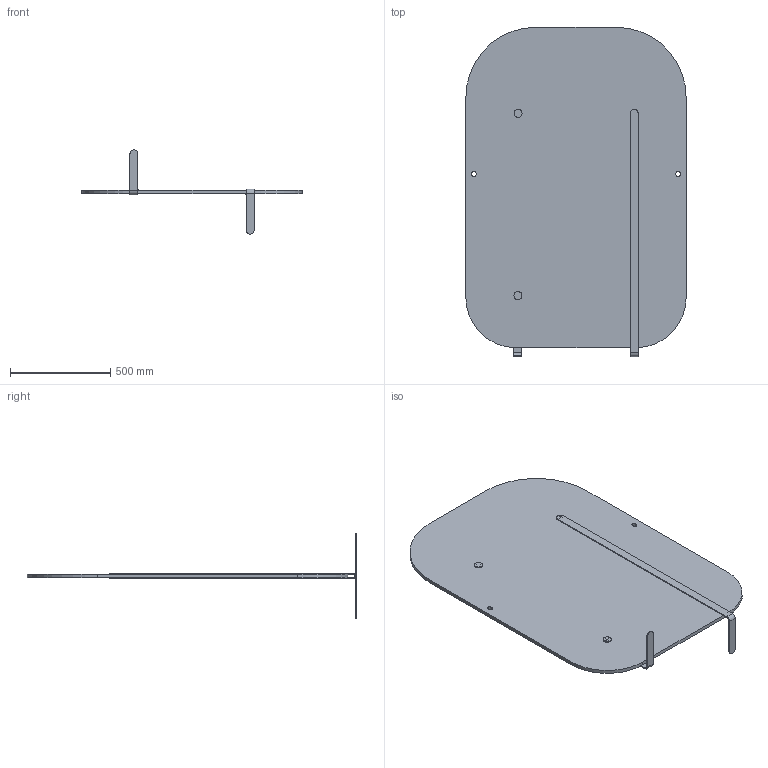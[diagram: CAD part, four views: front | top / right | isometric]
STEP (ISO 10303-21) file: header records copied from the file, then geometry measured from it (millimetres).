
FILE_DESCRIPTION (( 'STEP AP214' ), '1' );
FILE_NAME ('NIK_30.STEP', '2021-11-29T08:39:18', ( '' ), ( '' ), 'SwSTEP 2.0', 'SolidWorks 2019', '' );
FILE_SCHEMA (( 'AUTOMOTIVE_DESIGN' ));
Length unit declared in the file: millimetre
Products named in the file (6): TORNILLOS15; NIK_SOP_YW_01; NIK_TALL; CASQUILLO_ROSCADO18; Pieza5^NIK_30; NIK_30
Assembly tree (11 placements, depth 2):
  Pieza5^NIK_30
  NIK_30
    NIK_SOP_YW_01  x2
    CASQUILLO_ROSCADO18  x4
    NIK_TALL
    TORNILLOS15  x4
Bounding box: 1100 x 1645 x 422 mm (x, y, z)
Volume: 30830985.1 mm3; surface area: 3733853 mm2
Topology: 11 solids, 11 shells, 240 faces, 610 edges, 396 vertices
Faces by surface type: cylinder 174, plane 54, bspline 12
Entity records: 5151 total; most frequent: CARTESIAN_POINT 2887, ORIENTED_EDGE 444, DIRECTION 411, EDGE_CURVE 222, AXIS2_PLACEMENT_3D 155, VERTEX_POINT 144, EDGE_LOOP 102, VECTOR 101
